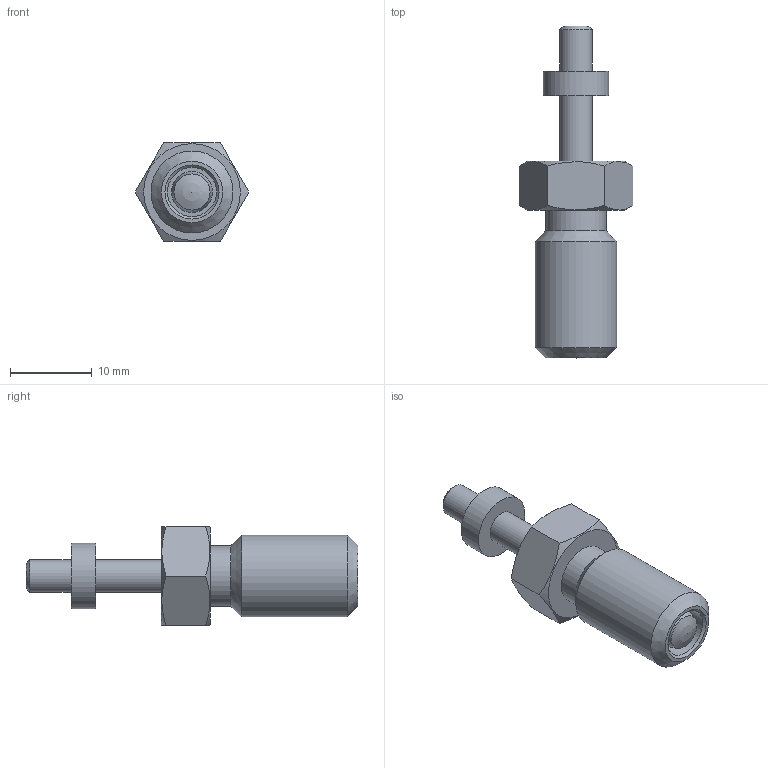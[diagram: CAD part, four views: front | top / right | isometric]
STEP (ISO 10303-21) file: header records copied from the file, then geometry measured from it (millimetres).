
FILE_DESCRIPTION( ( 'STEP AP203' ), '1' );
FILE_NAME( 'C:/Temp/Ganter_Step_05_03_2020/data/3_1/gn817/gn817_ni-rastbolzen/Stainless steel-Indexing plunger GN 817-5-8-G-NI (activated).stp', '2020-03-12T08:59:46', ( 'License CC BY-ND 4.0' ), ( 'CADENAS' ), ' ', 'PARTsolutions', ' ' );
FILE_SCHEMA( ( 'CONFIG_CONTROL_DESIGN' ) );
Length unit declared in the file: millimetre
Products named in the file (4): Stainless steel-Indexing plunger GN 817-5-8-G-NI (activated); _Stainless steel-Indexing plunger GN 817-5-8-G-NI (activated)-d2; _Stainless steel-Indexing plunger GN 817-5-8-B-NI-2; _Stainless Steel-Indexing plunger GN 817-5-8-G-NI-6
Assembly tree (3 placements, depth 2):
  Stainless steel-Indexing plunger GN 817-5-8-G-NI (activated)
    _Stainless steel-Indexing plunger GN 817-5-8-G-NI (activated)-d2
    _Stainless steel-Indexing plunger GN 817-5-8-B-NI-2
    _Stainless Steel-Indexing plunger GN 817-5-8-G-NI-6
Bounding box: 13.86 x 40.5 x 12 mm (x, y, z)
Volume: 2255.5 mm3; surface area: 2206.7 mm2
Topology: 2 solids, 2 shells, 35 faces, 69 edges, 44 vertices
Faces by surface type: plane 15, cylinder 9, cone 8, torus 2, sphere 1
Full cylindrical faces by diameter (mm): 4 x3, 5 x1, 6 x2, 7.4 x1, 8 x1, 10 x1
Entity records: 995 total; most frequent: CARTESIAN_POINT 233, DIRECTION 138, ORIENTED_EDGE 90, AXIS2_PLACEMENT_3D 66, EDGE_LOOP 62, FACE_OUTER_BOUND 46, EDGE_CURVE 45, VERTEX_POINT 40
